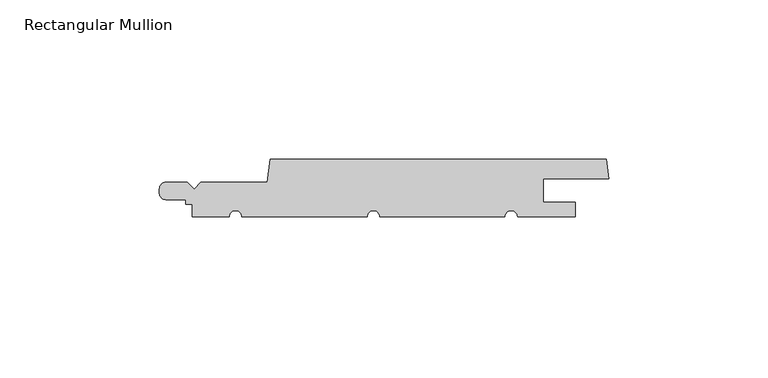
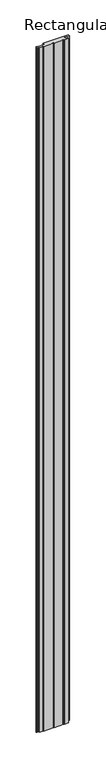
"""IFC4 building model written with IfcOpenShell, lengths in millimetres: member geometry, Rectangular Mullion : Cladding_Timber_Modinex_Channel_120_AlaskanYellowCedar."""

from ifc_helpers import new_model, si_unit, point, frame, frame_2d, origin, place, context, project, spatial, polyline, circle_curve, trimmed, segment, composite_curve, outline, extrude, source, transform, mapped, element, save


def rectangular_mullion_6d9aca67(model_context):
    return source(origin(), model_context, "Body", "SweptSolid", [
        extrude(outline(composite_curve([segment(polyline([(2.6253508, 10.8203707), (23.4689814, 10.8203707), (24.4780125, 18.0), (129.781259, 18.0), (130.5153107, 12.0216293), (110.0, 12.0216293), (110.0, 4.5527021), (120.0, 4.5527021), (120.0, 0.0), (102.0, 0.0)]), True, "CONTINUOUS"), segment(trimmed(circle_curve(frame_2d((100.0, 0.0)), 2.0), [point((102.0, 0.0))], [point((98.0, 0.0))], True, "CARTESIAN"), True, "CONTINUOUS"), segment(polyline([(98.0, 0.0), (58.7560899, 0.0)]), True, "CONTINUOUS"), segment(trimmed(circle_curve(frame_2d((56.7812882, 0.0)), 1.9748017), [point((58.7560899, 0.0))], [point((54.8064865, 0.0))], True, "CARTESIAN"), True, "CONTINUOUS"), segment(polyline([(54.8064865, 0.0), (15.5373781, 0.0)]), True, "CONTINUOUS"), segment(trimmed(circle_curve(frame_2d((13.5625764, 0.0)), 1.9748017), [point((15.5373781, 0.0))], [point((11.5877747, 0.0))], True, "CARTESIAN"), True, "CONTINUOUS"), segment(polyline([(11.5877747, 0.0), (0.0, 0.0), (0.0, 3.9720296), (-2.005786, 3.9720296), (-2.005786, 5.4241103), (-8.3313367, 5.4241103)]), True, "CONTINUOUS"), segment(trimmed(circle_curve(frame_2d((-8.3313367, 7.388134)), 1.9640237), [point((-8.3313367, 5.4241103))], [point((-10.2953604, 7.388134))], False, "CARTESIAN"), True, "CONTINUOUS"), segment(polyline([(-10.2953604, 7.388134), (-10.2953604, 8.803382)]), True, "CONTINUOUS"), segment(trimmed(circle_curve(frame_2d((-8.2783718, 8.803382)), 2.0169887), [point((-10.2953604, 8.803382))], [point((-8.2783718, 10.8203707))], False, "CARTESIAN"), True, "CONTINUOUS"), segment(polyline([(-8.2783718, 10.8203707), (-1.5484934, 10.8203707), (0.5384287, 8.7334486), (2.6253508, 10.8203707)]), True, "CONTINUOUS")], self_intersect=False)), frame((0.0, 0.0, -3000.0), z_axis=(0.0, 0.0, 1.0), x_axis=(1.0, 0.0, 0.0)), (0.0, 0.0, 1.0), 3000.0),
    ])


if __name__ == "__main__":
    model = new_model("IFC4")
    model_context = context("Model", 3, world=origin())
    ifc_project = project(units=[si_unit("LENGTHUNIT", "METRE", prefix="MILLI")], contexts=[model_context])
    site = spatial("IfcSite", under=ifc_project)
    building = spatial("IfcBuilding", under=site)
    placement = place(None, origin())
    rectangular_mullion_shape = rectangular_mullion_6d9aca67(model_context)
    element("IfcMember", 1, ObjectType="Rectangular Mullion : Cladding_Timber_Modinex_Channel_120_AlaskanYellowCedar", at=placement, inside=building, context=model_context, shape_type="MappedRepresentation", body=[
        mapped(rectangular_mullion_shape, transform((0.0, 0.0, 0.0), x_axis=(1.0, 0.0, 0.0), y_axis=(0.0, 1.0, 0.0), z_axis=(0.0, 0.0, 1.0))),
    ])
    save(model, "model.ifc")
